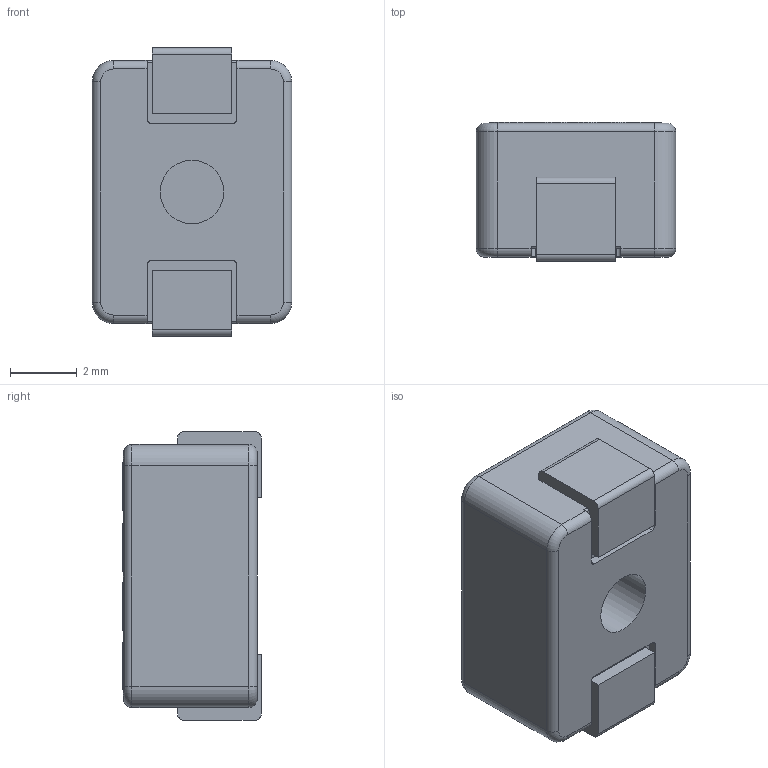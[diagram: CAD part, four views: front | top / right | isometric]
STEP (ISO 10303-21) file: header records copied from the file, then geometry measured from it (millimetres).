
FILE_DESCRIPTION (( 'STEP AP214' ), '1' );
FILE_NAME ('P700L Figure 1 Assembly.STEP', '2024-06-05T16:04:29', ( '' ), ( '' ), 'SwSTEP 2.0', 'SolidWorks 2019', '' );
FILE_SCHEMA (( 'AUTOMOTIVE_DESIGN' ));
Length unit declared in the file: inch
Products named in the file (10): P700L Figure 1 Assembly; P700L Figure 1 Element; P700L Figure 1 10.0A Text; P700L Figure 1 Solder; P700L Figure 1 72VDC Text; P700L Figure 1 Glass; P700L Figure 1 C-5862 Text; P700L Figure 1 Terminal; P700L Figure 1 P700L Text; P700L Figure 1 Body
Assembly tree (11 placements, depth 2):
  P700L Figure 1 Assembly
    P700L Figure 1 Body
    P700L Figure 1 Terminal  x2
    P700L Figure 1 Element
    P700L Figure 1 Glass
    P700L Figure 1 Solder  x2
    P700L Figure 1 P700L Text
    P700L Figure 1 72VDC Text
    P700L Figure 1 10.0A Text
    P700L Figure 1 C-5862 Text
Bounding box: 5.97 x 4.15 x 8.64 mm (x, y, z)
Volume: 186.9 mm3; surface area: 438.9 mm2
Topology: 28 solids, 28 shells, 439 faces, 1127 edges, 745 vertices
Faces by surface type: plane 218, bspline 170, cylinder 43, torus 8
Full cylindrical faces by diameter (mm): 1.905 x1
Entity records: 19879 total; most frequent: CARTESIAN_POINT 9950, ORIENTED_EDGE 2160, DIRECTION 1352, EDGE_CURVE 1080, VERTEX_POINT 714, VECTOR 656, LINE 656, EDGE_LOOP 446
